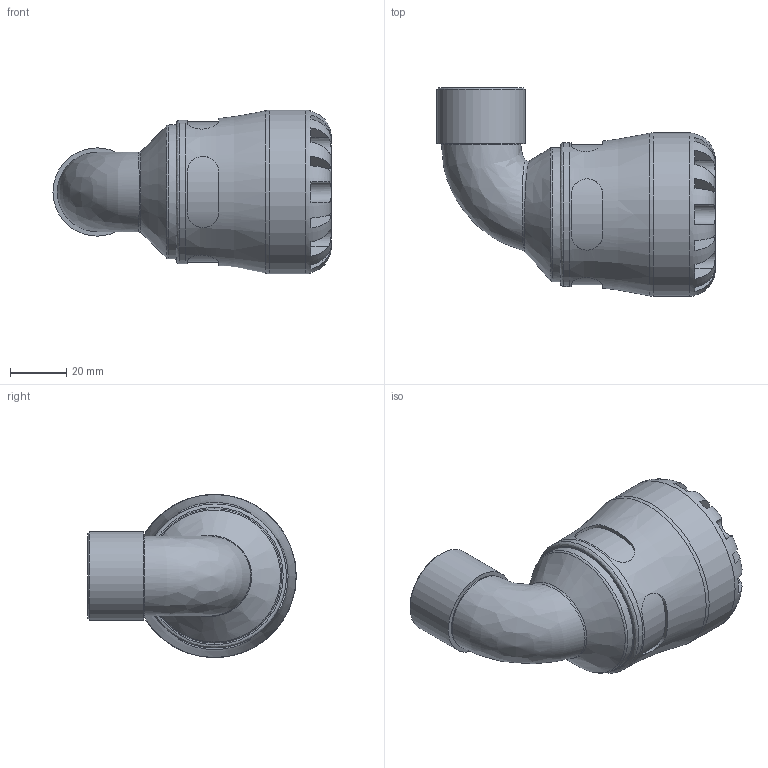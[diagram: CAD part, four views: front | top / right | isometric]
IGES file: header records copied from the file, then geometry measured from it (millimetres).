
Global section: file name: 101500032007_191500032007.ipt; native system: Autodesk Inventor 2015; preprocessor: unknown; author: KIM; date: 20170730.115216; units: millimetre
Bounding box: 98.68 x 74 x 58 mm (x, y, z)
Volume: 106670.4 mm3; surface area: 30014.6 mm2
Topology: 1 solids, 1 shells, 110 faces, 278 edges, 177 vertices
Faces by surface type: plane 62, revolution 26, cylinder 17, bspline 4, cone 1
Full cylindrical faces by diameter (mm): 28.217 x1, 31.352 x1, 47.56 x1, 51.04 x1, 58 x1
